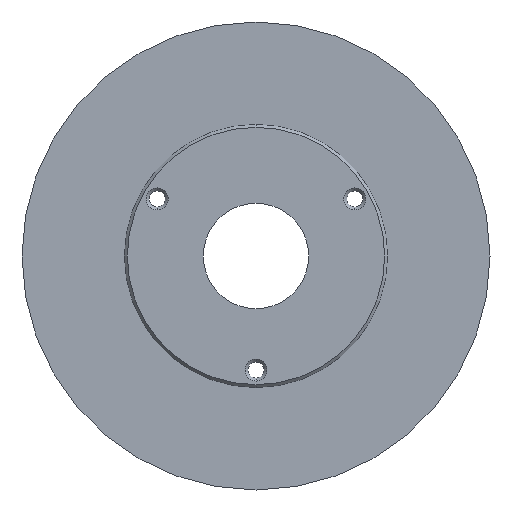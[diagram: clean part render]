
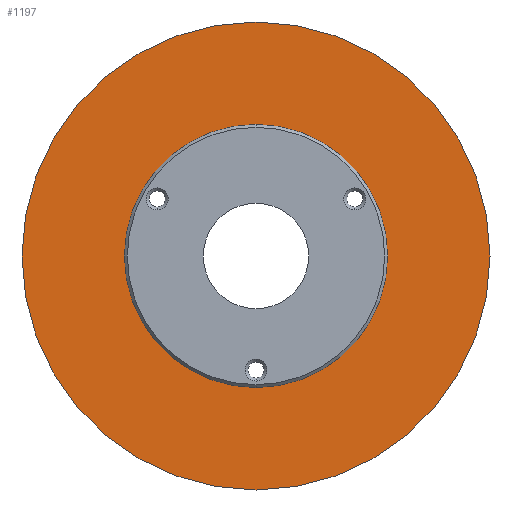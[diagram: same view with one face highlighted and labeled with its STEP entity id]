
A CAD part, front view. The second image highlights one B-rep face of the part: STEP entity #1197.
In plain terms, the highlighted planar face has unit normal (0, -1, 0).
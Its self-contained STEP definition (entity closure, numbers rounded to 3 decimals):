
#6 = CIRCLE ( 'NONE', #835, 80. ) ;
#8 = CARTESIAN_POINT ( 'NONE',  ( 0., 11., 0. ) ) ;
#10 = CARTESIAN_POINT ( 'NONE',  ( -45., 11., 0. ) ) ;
#20 = DIRECTION ( 'NONE',  ( 0., 0., -1. ) ) ;
#23 = ORIENTED_EDGE ( 'NONE', *, *, #506, .F. ) ;
#46 = CIRCLE ( 'NONE', #1005, 80. ) ;
#65 = EDGE_LOOP ( 'NONE', ( #23, #373 ) ) ;
#94 = DIRECTION ( 'NONE',  ( 0., 0., -1. ) ) ;
#112 = AXIS2_PLACEMENT_3D ( 'NONE', #10, #188, #847 ) ;
#172 = FACE_BOUND ( 'NONE', #65, .T. ) ;
#179 = EDGE_LOOP ( 'NONE', ( #792, #944 ) ) ;
#188 = DIRECTION ( 'NONE',  ( 0., 1., 0. ) ) ;
#190 = CARTESIAN_POINT ( 'NONE',  ( 0., 11., -45. ) ) ;
#237 = EDGE_CURVE ( 'NONE', #487, #980, #6, .T. ) ;
#292 = CIRCLE ( 'NONE', #1130, 45. ) ;
#363 = PLANE ( 'NONE',  #112 ) ;
#373 = ORIENTED_EDGE ( 'NONE', *, *, #841, .F. ) ;
#394 = AXIS2_PLACEMENT_3D ( 'NONE', #1132, #555, #20 ) ;
#487 = VERTEX_POINT ( 'NONE', #1113 ) ;
#506 = EDGE_CURVE ( 'NONE', #858, #1074, #292, .T. ) ;
#555 = DIRECTION ( 'NONE',  ( 0., -1., 0. ) ) ;
#583 = DIRECTION ( 'NONE',  ( 0., -1., 0. ) ) ;
#642 = DIRECTION ( 'NONE',  ( 0., -1., 0. ) ) ;
#750 = CIRCLE ( 'NONE', #394, 45. ) ;
#770 = CARTESIAN_POINT ( 'NONE',  ( 0., 11., 0. ) ) ;
#792 = ORIENTED_EDGE ( 'NONE', *, *, #1175, .T. ) ;
#796 = CARTESIAN_POINT ( 'NONE',  ( 0., 11., -80. ) ) ;
#797 = DIRECTION ( 'NONE',  ( 0., 0., -1. ) ) ;
#810 = CARTESIAN_POINT ( 'NONE',  ( 0., 11., 0. ) ) ;
#816 = CARTESIAN_POINT ( 'NONE',  ( 0., 11., 45. ) ) ;
#835 = AXIS2_PLACEMENT_3D ( 'NONE', #770, #1152, #1146 ) ;
#841 = EDGE_CURVE ( 'NONE', #1074, #858, #750, .T. ) ;
#847 = DIRECTION ( 'NONE',  ( 0., 0., 1. ) ) ;
#858 = VERTEX_POINT ( 'NONE', #190 ) ;
#944 = ORIENTED_EDGE ( 'NONE', *, *, #237, .T. ) ;
#980 = VERTEX_POINT ( 'NONE', #796 ) ;
#1005 = AXIS2_PLACEMENT_3D ( 'NONE', #8, #642, #94 ) ;
#1074 = VERTEX_POINT ( 'NONE', #816 ) ;
#1113 = CARTESIAN_POINT ( 'NONE',  ( 0., 11., 80. ) ) ;
#1130 = AXIS2_PLACEMENT_3D ( 'NONE', #810, #583, #797 ) ;
#1132 = CARTESIAN_POINT ( 'NONE',  ( 0., 11., 0. ) ) ;
#1144 = FACE_OUTER_BOUND ( 'NONE', #179, .T. ) ;
#1146 = DIRECTION ( 'NONE',  ( 0., 0., -1. ) ) ;
#1152 = DIRECTION ( 'NONE',  ( 0., -1., 0. ) ) ;
#1175 = EDGE_CURVE ( 'NONE', #980, #487, #46, .T. ) ;
#1197 = ADVANCED_FACE ( 'NONE', ( #172, #1144 ), #363, .F. ) ;
